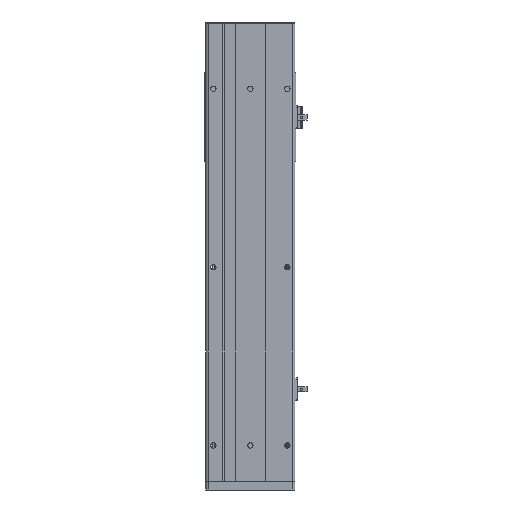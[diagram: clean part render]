
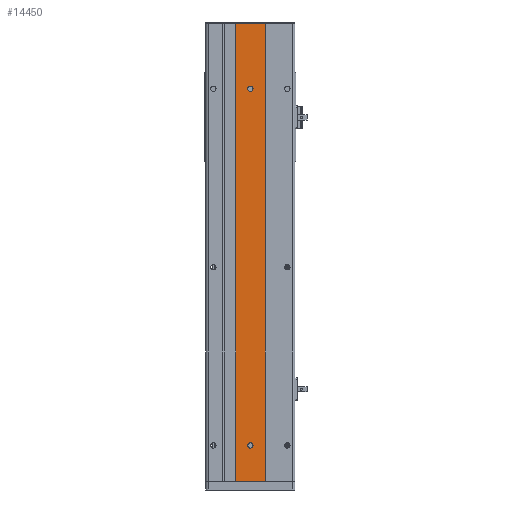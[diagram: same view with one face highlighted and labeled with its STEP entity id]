
A CAD part, front view. The second image highlights one B-rep face of the part: STEP entity #14450.
In plain terms, the highlighted planar face has unit normal (0, -1, 0).
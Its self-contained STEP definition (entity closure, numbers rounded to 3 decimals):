
#112 = ORIENTED_EDGE ( 'NONE', *, *, #10583, .F. ) ;
#909 = CARTESIAN_POINT ( 'NONE',  ( 0., 0., 186.5 ) ) ;
#1091 = DIRECTION ( 'NONE',  ( 1., 0., 0. ) ) ;
#1140 = EDGE_CURVE ( 'NONE', #15250, #10778, #12472, .T. ) ;
#1348 = CARTESIAN_POINT ( 'NONE',  ( -16.5, 0., 256.5 ) ) ;
#2271 = CARTESIAN_POINT ( 'NONE',  ( 0., 0., 180.5 ) ) ;
#2274 = ORIENTED_EDGE ( 'NONE', *, *, #18364, .F. ) ;
#2426 = VERTEX_POINT ( 'NONE', #18780 ) ;
#2993 = ORIENTED_EDGE ( 'NONE', *, *, #26871, .F. ) ;
#3177 = EDGE_LOOP ( 'NONE', ( #12035, #31442 ) ) ;
#4496 = AXIS2_PLACEMENT_3D ( 'NONE', #10779, #10483, #10376 ) ;
#5873 = CIRCLE ( 'NONE', #22937, 3. ) ;
#6302 = EDGE_LOOP ( 'NONE', ( #2274, #2993 ) ) ;
#6608 = CARTESIAN_POINT ( 'NONE',  ( 0., 0., -219.5 ) ) ;
#6620 = VECTOR ( 'NONE', #10808, 1000. ) ;
#6988 = AXIS2_PLACEMENT_3D ( 'NONE', #21630, #22347, #21215 ) ;
#7354 = VECTOR ( 'NONE', #10837, 1000. ) ;
#7861 = AXIS2_PLACEMENT_3D ( 'NONE', #13412, #13084, #13044 ) ;
#7997 = FACE_OUTER_BOUND ( 'NONE', #12452, .T. ) ;
#8163 = LINE ( 'NONE', #10951, #7354 ) ;
#9791 = VERTEX_POINT ( 'NONE', #16659 ) ;
#9904 = LINE ( 'NONE', #1348, #28482 ) ;
#10376 = DIRECTION ( 'NONE',  ( 0., 0., -1. ) ) ;
#10483 = DIRECTION ( 'NONE',  ( 0., -1., 0. ) ) ;
#10583 = EDGE_CURVE ( 'NONE', #9791, #20008, #18227, .T. ) ;
#10778 = VERTEX_POINT ( 'NONE', #2271 ) ;
#10779 = CARTESIAN_POINT ( 'NONE',  ( 0., 0., -216.5 ) ) ;
#10808 = DIRECTION ( 'NONE',  ( 0., 0., -1. ) ) ;
#10837 = DIRECTION ( 'NONE',  ( 0., 0., -1. ) ) ;
#10951 = CARTESIAN_POINT ( 'NONE',  ( -16.5, 0., 256.5 ) ) ;
#11620 = CARTESIAN_POINT ( 'NONE',  ( 16.5, 0., 256.5 ) ) ;
#12035 = ORIENTED_EDGE ( 'NONE', *, *, #13772, .F. ) ;
#12110 = ORIENTED_EDGE ( 'NONE', *, *, #27130, .T. ) ;
#12339 = VERTEX_POINT ( 'NONE', #6608 ) ;
#12452 = EDGE_LOOP ( 'NONE', ( #12110, #112, #12948, #29182 ) ) ;
#12472 = CIRCLE ( 'NONE', #6988, 3. ) ;
#12948 = ORIENTED_EDGE ( 'NONE', *, *, #15234, .F. ) ;
#13044 = DIRECTION ( 'NONE',  ( 0., 0., 1. ) ) ;
#13084 = DIRECTION ( 'NONE',  ( 0., 1., 0. ) ) ;
#13113 = PLANE ( 'NONE',  #7861 ) ;
#13412 = CARTESIAN_POINT ( 'NONE',  ( -16.5, 0., 256.5 ) ) ;
#13772 = EDGE_CURVE ( 'NONE', #10778, #15250, #17653, .T. ) ;
#14450 = ADVANCED_FACE ( 'NONE', ( #21072, #26688, #7997 ), #13113, .F. ) ;
#15234 = EDGE_CURVE ( 'NONE', #27155, #9791, #9904, .T. ) ;
#15250 = VERTEX_POINT ( 'NONE', #909 ) ;
#15740 = CIRCLE ( 'NONE', #4496, 3. ) ;
#16134 = VERTEX_POINT ( 'NONE', #30852 ) ;
#16659 = CARTESIAN_POINT ( 'NONE',  ( 16.5, 0., 256.5 ) ) ;
#17001 = CARTESIAN_POINT ( 'NONE',  ( 16.5, 0., -256.5 ) ) ;
#17653 = CIRCLE ( 'NONE', #22851, 3. ) ;
#18227 = LINE ( 'NONE', #11620, #6620 ) ;
#18364 = EDGE_CURVE ( 'NONE', #12339, #16134, #5873, .T. ) ;
#18780 = CARTESIAN_POINT ( 'NONE',  ( -16.5, 0., -256.5 ) ) ;
#19324 = EDGE_CURVE ( 'NONE', #27155, #2426, #8163, .T. ) ;
#20008 = VERTEX_POINT ( 'NONE', #17001 ) ;
#21072 = FACE_BOUND ( 'NONE', #6302, .T. ) ;
#21215 = DIRECTION ( 'NONE',  ( 0., 0., -1. ) ) ;
#21630 = CARTESIAN_POINT ( 'NONE',  ( 0., 0., 183.5 ) ) ;
#22347 = DIRECTION ( 'NONE',  ( 0., -1., 0. ) ) ;
#22851 = AXIS2_PLACEMENT_3D ( 'NONE', #23057, #23049, #23017 ) ;
#22937 = AXIS2_PLACEMENT_3D ( 'NONE', #29629, #29603, #29571 ) ;
#23017 = DIRECTION ( 'NONE',  ( 0., 0., -1. ) ) ;
#23049 = DIRECTION ( 'NONE',  ( 0., -1., 0. ) ) ;
#23057 = CARTESIAN_POINT ( 'NONE',  ( 0., 0., 183.5 ) ) ;
#26688 = FACE_BOUND ( 'NONE', #3177, .T. ) ;
#26871 = EDGE_CURVE ( 'NONE', #16134, #12339, #15740, .T. ) ;
#27130 = EDGE_CURVE ( 'NONE', #2426, #20008, #28190, .T. ) ;
#27155 = VERTEX_POINT ( 'NONE', #31110 ) ;
#27431 = VECTOR ( 'NONE', #31320, 1000. ) ;
#28190 = LINE ( 'NONE', #31363, #27431 ) ;
#28482 = VECTOR ( 'NONE', #1091, 1000. ) ;
#29182 = ORIENTED_EDGE ( 'NONE', *, *, #19324, .T. ) ;
#29571 = DIRECTION ( 'NONE',  ( 0., 0., -1. ) ) ;
#29603 = DIRECTION ( 'NONE',  ( 0., -1., 0. ) ) ;
#29629 = CARTESIAN_POINT ( 'NONE',  ( 0., 0., -216.5 ) ) ;
#30852 = CARTESIAN_POINT ( 'NONE',  ( 0., 0., -213.5 ) ) ;
#31110 = CARTESIAN_POINT ( 'NONE',  ( -16.5, 0., 256.5 ) ) ;
#31320 = DIRECTION ( 'NONE',  ( 1., 0., 0. ) ) ;
#31363 = CARTESIAN_POINT ( 'NONE',  ( -16.5, 0., -256.5 ) ) ;
#31442 = ORIENTED_EDGE ( 'NONE', *, *, #1140, .F. ) ;
